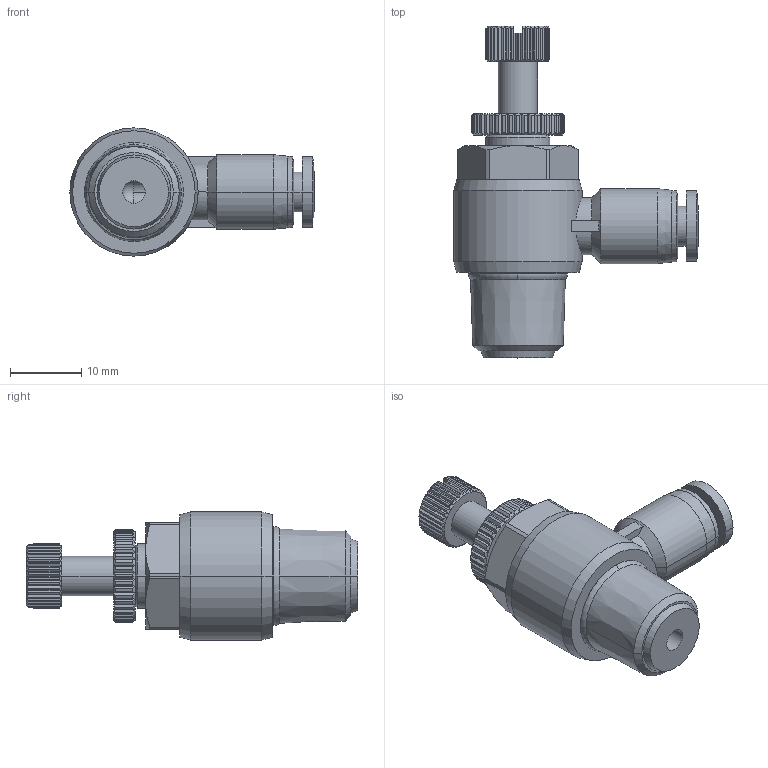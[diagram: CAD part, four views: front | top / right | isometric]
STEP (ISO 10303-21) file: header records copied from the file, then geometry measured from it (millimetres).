
FILE_DESCRIPTION (( 'STEP AP203' ), '1' );
FILE_NAME ('SCL04-02.STEP', '2020-05-12T15:33:32', ( '' ), ( '' ), 'SwSTEP 2.0', 'SolidWorks 2019', '' );
FILE_SCHEMA (( 'CONFIG_CONTROL_DESIGN' ));
Length unit declared in the file: millimetre
Products named in the file (1): SCL04-02
Bounding box: 34.3 x 46.6 x 18 mm (x, y, z)
Volume: 7494.7 mm3; surface area: 3731.8 mm2
Topology: 1 solids, 1 shells, 417 faces, 1019 edges, 615 vertices
Faces by surface type: plane 187, cone 114, cylinder 111, torus 4, sphere 1
Entity records: 11925 total; most frequent: CARTESIAN_POINT 2823, ORIENTED_EDGE 2036, DIRECTION 1870, EDGE_CURVE 1018, AXIS2_PLACEMENT_3D 770, VERTEX_POINT 615, EDGE_LOOP 431, ADVANCED_FACE 417
